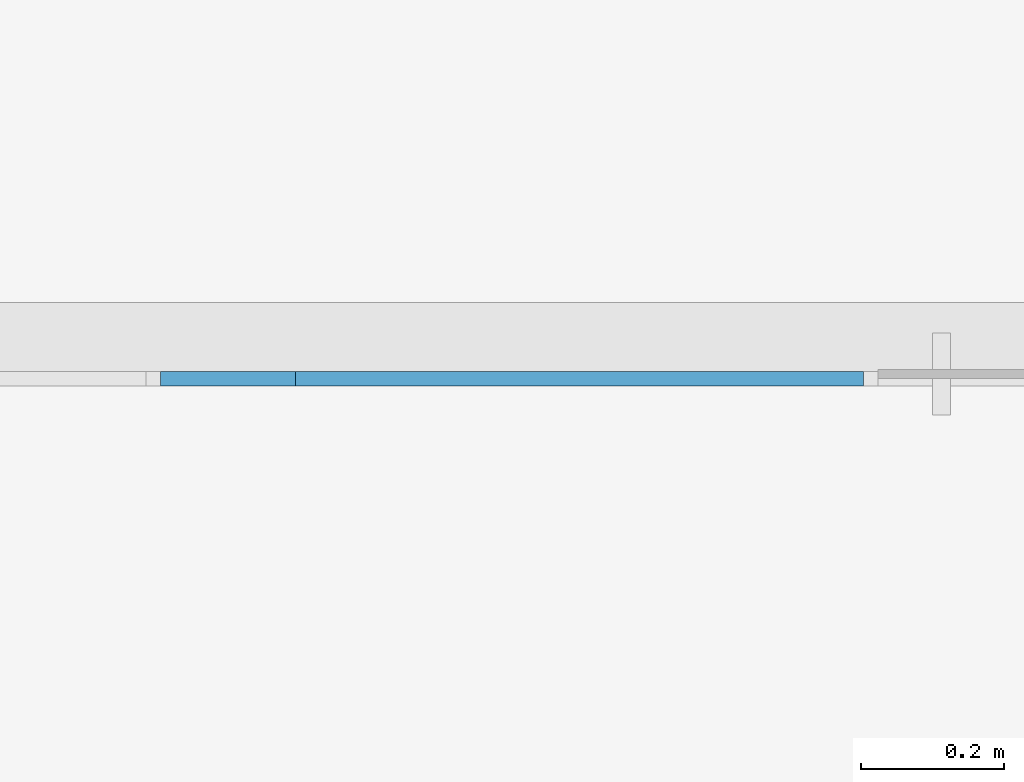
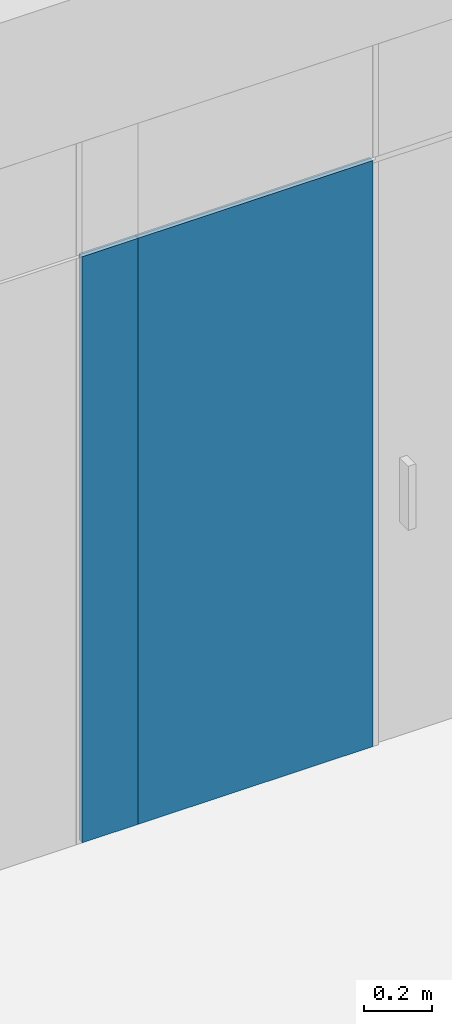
# One storey, part 10 of 49: 2 plates, 1 element without a shape of its own.
"""IFC2X3 building model written with IfcOpenShell, lengths in millimetres."""

import ifcopenshell
import ifcopenshell.guid

model = None  # the IFC model being written
_history = None  # IfcOwnerHistory: only IFC2X3 demands one
_inside = {}  # id of a spatial element -> (the spatial element, [elements in it])
_under = {}  # id of a project, library or spatial element -> (it, [spatial elements below it])
_declared = {}  # id of a project -> (the project, [libraries it declares])
_typed = {}  # id of a type object -> (the type object, [elements of that type])
_made_of = {}  # id of a material, layer set ... -> (it, [elements and type objects made of it])


def new_model(schema):
    """Start an empty IFC model of exactly this schema.

    Asked for "IFC4X3", IfcOpenShell would pick the latest addendum, in which some entities
    have other attributes; the version numbers below select the first issue.
    IFC2X3 requires an IfcOwnerHistory on every rooted entity: one is made here for all.
    """
    global model, _history
    if schema == "IFC4X3":
        model = ifcopenshell.file(schema_version=(4, 3, 0, 0))
    else:
        model = ifcopenshell.file(schema=schema)
    _inside.clear()
    _under.clear()
    _declared.clear()
    _typed.clear()
    _made_of.clear()
    _history = None
    if model.schema == "IFC2X3":
        org = make("IfcOrganization", Name="unknown")
        user = make(
            "IfcPersonAndOrganization",
            ThePerson=make("IfcPerson", FamilyName="unknown"),
            TheOrganization=org,
        )
        app = make(
            "IfcApplication",
            ApplicationDeveloper=org,
            Version="unknown",
            ApplicationFullName="unknown",
            ApplicationIdentifier="unknown",
        )
        _history = make(
            "IfcOwnerHistory",
            OwningUser=user,
            OwningApplication=app,
            ChangeAction="ADDED",
            CreationDate=0,
        )
    return model


def make(cls, **values):
    """One entity of the class cls with the attributes given. An attribute that is None is left unset."""
    return model.create_entity(
        cls, **{name: value for name, value in values.items() if value is not None}
    )


def entity(cls, *values):
    """Any entity or typed value of the class cls, its attributes in the order of the schema. None: left unset."""
    e = model.create_entity(cls)
    for i, value in enumerate(values):
        if value is not None:
            e[i] = value
    return e


def rooted(cls, **values):
    """An entity with a GlobalId (a new one), such as an element, a storey or a relation."""
    return make(cls, GlobalId=ifcopenshell.guid.new(), OwnerHistory=_history, **values)


def si_unit(unit_type, name, prefix=None):
    """IfcSIUnit, for example si_unit("LENGTHUNIT", "METRE", prefix="MILLI")."""
    return make("IfcSIUnit", UnitType=unit_type, Prefix=prefix, Name=name)


def converted_unit(unit_type, name, factor, base, dimensions=None, offset=None):
    """IfcConversionBasedUnit, such as the inch: factor (a typed value) times the base unit."""
    return make(
        "IfcConversionBasedUnit"
        if offset is None
        else "IfcConversionBasedUnitWithOffset",
        ConversionOffset=offset,
        Dimensions=None
        if dimensions is None
        else entity("IfcDimensionalExponents", *dimensions),
        UnitType=unit_type,
        Name=name,
        ConversionFactor=make(
            "IfcMeasureWithUnit", ValueComponent=factor, UnitComponent=base
        ),
    )


def derived_unit(unit_type, elements):
    """IfcDerivedUnit: a product of units, each with its exponent."""
    return make(
        "IfcDerivedUnit",
        Elements=[
            make("IfcDerivedUnitElement", Unit=unit, Exponent=power)
            for unit, power in elements
        ],
        UnitType=unit_type,
    )


def assignment(units):
    """IfcUnitAssignment: the units of a project."""
    return None if units is None else make("IfcUnitAssignment", Units=units)


def point(xyz):
    """IfcCartesianPoint."""
    return None if xyz is None else make("IfcCartesianPoint", Coordinates=xyz)


def direction(xyz):
    """IfcDirection."""
    return None if xyz is None else make("IfcDirection", DirectionRatios=xyz)


def frame(location, z_axis=None, x_axis=None):
    """IfcAxis2Placement3D, a coordinate frame: its origin and axes. An axis left out is left unset."""
    return make(
        "IfcAxis2Placement3D",
        Location=point(location),
        Axis=direction(z_axis),
        RefDirection=direction(x_axis),
    )


def frame_2d(location, x_axis=None):
    """IfcAxis2Placement2D, a coordinate frame in the plane: its origin and x axis."""
    return make(
        "IfcAxis2Placement2D", Location=point(location), RefDirection=direction(x_axis)
    )


def origin():
    """The frame at (0, 0, 0) with its axes left unset."""
    return frame((0.0, 0.0, 0.0))


def origin_2d_with_axis():
    """The frame at (0, 0) in the plane with the x axis (1, 0) written out."""
    return frame_2d((0.0, 0.0), x_axis=(1.0, 0.0))


def place(relative_to, where):
    """IfcLocalPlacement: puts the frame where relative to a parent placement (None: the world)."""
    return make(
        "IfcLocalPlacement", PlacementRelTo=relative_to, RelativePlacement=where
    )


def context(
    kind, dimensions, precision=None, world=None, true_north=None, identifier=None
):
    """IfcGeometricRepresentationContext, for example the 3D "Model" context."""
    return make(
        "IfcGeometricRepresentationContext",
        ContextIdentifier=identifier,
        ContextType=kind,
        CoordinateSpaceDimension=dimensions,
        Precision=precision,
        WorldCoordinateSystem=world,
        TrueNorth=true_north,
    )


def subcontext(parent, identifier, kind, view, scale=None):
    """IfcGeometricRepresentationSubContext, for example "Body" below "Model"."""
    return make(
        "IfcGeometricRepresentationSubContext",
        ContextIdentifier=identifier,
        ContextType=kind,
        ParentContext=parent,
        TargetScale=scale,
        TargetView=view,
    )


def project(units=None, contexts=None):
    """IfcProject with its units and contexts."""
    return rooted(
        "IfcProject",
        Name="project",
        RepresentationContexts=contexts,
        UnitsInContext=assignment(units),
    )


def spatial(cls, under=None, at=None, **own):
    """A site, building, storey or space (cls), placed at a placement, below another one or the project."""
    s = rooted(cls, ObjectPlacement=at, **own)
    if under is not None:
        _under.setdefault(under.id(), (under, []))[1].append(s)
    return s


def profile(cls, at=None, kind="AREA", **sizes):
    """A parametric profile (cls). Its sizes go by their IFC names, for example OverallWidth=200.0."""
    return make(cls, ProfileType=kind, Position=at, **sizes)


def rectangle(**sizes):
    """IfcRectangleProfileDef."""
    return profile("IfcRectangleProfileDef", **sizes)


def extrude(swept, where, along, depth):
    """IfcExtrudedAreaSolid: the profile swept, set in the frame where, extruded along a direction by depth."""
    return make(
        "IfcExtrudedAreaSolid",
        SweptArea=swept,
        Position=where,
        ExtrudedDirection=direction(along),
        Depth=depth,
    )


def shape(context_of_items, identifier, shape_type, items):
    """IfcShapeRepresentation: the items that make up one representation, for example the "Body"."""
    return make(
        "IfcShapeRepresentation",
        ContextOfItems=context_of_items,
        RepresentationIdentifier=identifier,
        RepresentationType=shape_type,
        Items=items,
    )


def source(mapping_origin, context_of_items, identifier, shape_type, items):
    """IfcRepresentationMap: a shape defined once, which mapped items show again and again."""
    return make(
        "IfcRepresentationMap",
        MappingOrigin=mapping_origin,
        MappedRepresentation=shape(context_of_items, identifier, shape_type, items),
    )


def transform(
    local_origin,
    x_axis=None,
    y_axis=None,
    z_axis=None,
    scale=None,
    scale2=None,
    scale3=None,
    uniform=True,
):
    """IfcCartesianTransformationOperator3D, or its non-uniform kind. x_axis, y_axis, z_axis: its Axis1, 2, 3."""
    if uniform:
        return make(
            "IfcCartesianTransformationOperator3D",
            Axis1=direction(x_axis),
            Axis2=direction(y_axis),
            LocalOrigin=point(local_origin),
            Scale=scale,
            Axis3=direction(z_axis),
        )
    return make(
        "IfcCartesianTransformationOperator3DnonUniform",
        Axis1=direction(x_axis),
        Axis2=direction(y_axis),
        LocalOrigin=point(local_origin),
        Scale=scale,
        Axis3=direction(z_axis),
        Scale2=scale2,
        Scale3=scale3,
    )


def mapped(mapping_source, mapping_target):
    """IfcMappedItem: shows the shape of a source again, moved by a transform."""
    return make(
        "IfcMappedItem", MappingSource=mapping_source, MappingTarget=mapping_target
    )


def material(Name=None, Category=None):
    """IfcMaterial."""
    return make("IfcMaterial", Name=Name, Category=Category)


def layer(
    of_material, thickness, ventilated=None, Name=None, Category=None, Priority=None
):
    """IfcMaterialLayer: one layer of a wall or slab, of a material (None: an air gap)."""
    return make(
        "IfcMaterialLayer",
        Material=of_material,
        LayerThickness=thickness,
        IsVentilated=ventilated,
        Name=Name,
        Category=Category,
        Priority=Priority,
    )


def layer_set(layers, Name=None):
    """IfcMaterialLayerSet."""
    return make("IfcMaterialLayerSet", MaterialLayers=layers, LayerSetName=Name)


def layer_usage(for_layer_set, set_direction, sense, offset, extent=None):
    """IfcMaterialLayerSetUsage: how a layer set lies in its element."""
    return make(
        "IfcMaterialLayerSetUsage",
        ForLayerSet=for_layer_set,
        LayerSetDirection=set_direction,
        DirectionSense=sense,
        OffsetFromReferenceLine=offset,
        ReferenceExtent=extent,
    )


def made_of(thing, what):
    """Note that an element or type object is made of a material, layer set ...; save() writes the relation."""
    if what is not None:
        _made_of.setdefault(what.id(), (what, []))[1].append(thing)
    return thing


def type_object(cls, material=None, **own):
    """A type object (cls), such as IfcWallType, which elements share."""
    return made_of(rooted(cls, **own), material)


def type_shapes(of_type, sources):
    """Give a type object the sources (RepresentationMaps) that its elements show as mapped items."""
    of_type.RepresentationMaps = sources


def element(
    cls,
    number,
    at=None,
    inside=None,
    cuts=None,
    type_object=None,
    material=None,
    context=None,
    identifier="Body",
    shape_type=None,
    held_by="IfcProductDefinitionShape",
    body=None,
    shapes=None,
    **own,
):
    """One element of the class cls, such as IfcWall. Its Tag is "e" and its number.

    at: its placement. inside: the storey or other place that contains it. cuts: it is an
    opening in that element (IfcRelVoidsElement). A single representation is given by context,
    identifier, shape_type and body (its items); several are given by shapes. held_by: the class
    of the entity that holds the representations. save() writes the other relations.
    """
    e = rooted(cls, Tag="e%d" % number, ObjectPlacement=at, **own)
    if body is not None:
        shapes = [shape(context, identifier, shape_type, body)]
    if shapes is not None:
        e.Representation = make(held_by, Representations=shapes)
    if inside is not None:
        _inside.setdefault(inside.id(), (inside, []))[1].append(e)
    if cuts is not None:
        rooted(
            "IfcRelVoidsElement", RelatingBuildingElement=cuts, RelatedOpeningElement=e
        )
    if type_object is not None:
        _typed.setdefault(type_object.id(), (type_object, []))[1].append(e)
    return made_of(e, material)


def aggregate(whole, parts):
    """IfcRelAggregates: a whole, such as a stair, and the parts it consists of."""
    return rooted("IfcRelAggregates", RelatingObject=whole, RelatedObjects=parts)


def save(model, path):
    """Write the relations noted so far, then the file.

    IfcRelAggregates (storeys below a building ...), IfcRelContainedInSpatialStructure (elements
    in a storey), IfcRelDefinesByType, IfcRelAssociatesMaterial and IfcRelDeclares: one each for
    every whole, place, type object, material and project.
    """
    for whole, parts in _under.values():
        aggregate(whole, parts)
    for where, things in _inside.values():
        rooted(
            "IfcRelContainedInSpatialStructure",
            RelatedElements=things,
            RelatingStructure=where,
        )
    for kind, things in _typed.values():
        rooted("IfcRelDefinesByType", RelatedObjects=things, RelatingType=kind)
    for what, things in _made_of.values():
        rooted("IfcRelAssociatesMaterial", RelatedObjects=things, RelatingMaterial=what)
    for by, libraries in _declared.values():
        rooted("IfcRelDeclares", RelatingContext=by, RelatedDefinitions=libraries)
    model.write(path)


model = new_model("IFC2X3")

# Units and contexts
model_context = context("Model", 3, precision=0.01, world=origin(), true_north=direction((6.12303176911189e-17, 1.0)))
body_context = subcontext(model_context, "Body", "Model", "MODEL_VIEW")
ifc_project = project(units=[si_unit("LENGTHUNIT", "METRE", prefix="MILLI"), si_unit("AREAUNIT", "SQUARE_METRE"), si_unit("VOLUMEUNIT", "CUBIC_METRE"), converted_unit("PLANEANGLEUNIT", "DEGREE", entity("IfcRatioMeasure", 0.0174532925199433), si_unit("PLANEANGLEUNIT", "RADIAN"), dimensions=[0, 0, 0, 0, 0, 0, 0]), si_unit("MASSUNIT", "GRAM", prefix="KILO"), derived_unit("MASSDENSITYUNIT", [(si_unit("MASSUNIT", "GRAM", prefix="KILO"), 1), (si_unit("LENGTHUNIT", "METRE"), -3)]), si_unit("TIMEUNIT", "SECOND"), si_unit("FREQUENCYUNIT", "HERTZ"), si_unit("THERMODYNAMICTEMPERATUREUNIT", "DEGREE_CELSIUS"), derived_unit("THERMALTRANSMITTANCEUNIT", [(si_unit("MASSUNIT", "GRAM", prefix="KILO"), 1), (si_unit("THERMODYNAMICTEMPERATUREUNIT", "KELVIN"), -1), (si_unit("TIMEUNIT", "SECOND"), -3)]), derived_unit("VOLUMETRICFLOWRATEUNIT", [(si_unit("LENGTHUNIT", "METRE"), 3), (si_unit("TIMEUNIT", "SECOND"), -1)]), si_unit("ELECTRICCURRENTUNIT", "AMPERE"), si_unit("ELECTRICVOLTAGEUNIT", "VOLT"), si_unit("POWERUNIT", "WATT"), si_unit("FORCEUNIT", "NEWTON", prefix="KILO"), si_unit("ILLUMINANCEUNIT", "LUX"), si_unit("LUMINOUSFLUXUNIT", "LUMEN"), si_unit("LUMINOUSINTENSITYUNIT", "CANDELA"), derived_unit("USERDEFINED", [(si_unit("MASSUNIT", "GRAM", prefix="KILO"), -1), (si_unit("LENGTHUNIT", "METRE"), -2), (si_unit("TIMEUNIT", "SECOND"), 3), (si_unit("LUMINOUSFLUXUNIT", "LUMEN"), 1)]), derived_unit("LINEARVELOCITYUNIT", [(si_unit("LENGTHUNIT", "METRE"), 1), (si_unit("TIMEUNIT", "SECOND"), -1)]), si_unit("PRESSUREUNIT", "PASCAL"), derived_unit("USERDEFINED", [(si_unit("LENGTHUNIT", "METRE"), -2), (si_unit("MASSUNIT", "GRAM", prefix="KILO"), 1), (si_unit("TIMEUNIT", "SECOND"), -2)])], contexts=[model_context])

# Site, building, storey
site_placement = place(None, frame((-151.875543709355, 2715.0, 0.0)))
site = spatial("IfcSite", under=ifc_project, at=site_placement, Name="Surface", CompositionType="ELEMENT")
building_placement = place(site_placement, origin())
building = spatial("IfcBuilding", under=site, at=building_placement, CompositionType="ELEMENT")
storey_placement = place(building_placement, origin())
storey = spatial("IfcBuildingStorey", under=building, at=storey_placement, Name="1 korrus", CompositionType="ELEMENT", Elevation=3.0969999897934e-10)

# Curtain wall, plates
curtain_wall_type = type_object("IfcCurtainWallType", Name="Curtain Wall:Klaassein KLS-01", PredefinedType="NOTDEFINED")
curtain_wall_placement = place(storey_placement, origin())
curtain_wall = element("IfcCurtainWall", 1, at=curtain_wall_placement, inside=storey, type_object=curtain_wall_type, Name="Curtain Wall:Klaassein KLS-01", ObjectType="Curtain Wall:Klaassein KLS-01")
ifc_material = material(Name="<Unnamed>")
ifc_layer = layer(ifc_material, 20.0)
ifc_layer_set = layer_set([ifc_layer], Name="Curtain Wall:Klaassein KLS-01")
ifc_layer_usage_1 = layer_usage(ifc_layer_set, "AXIS3", "POSITIVE", 0.0)
plate_type_1 = type_object("IfcPlateType", Name="Glazed", PredefinedType="CURTAIN_PANEL", material=ifc_layer_set)
shared_shape_1 = source(origin(), body_context, "Body", "SweptSolid", [
    extrude(rectangle(XDim=20.0, YDim=188.0000003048, at=origin_2d_with_axis()), frame((0.0, 0.0, 0.0), z_axis=(0.0, 0.0, 1.0), x_axis=(0.0, 1.0, 0.0)), (0.0, 0.0, 1.0), 2090.0),
])
type_shapes(plate_type_1, [shared_shape_1])
plate_1_placement = place(curtain_wall_placement, frame((17859.2710851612, 3017.49999999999, 0.0)))
plate_1 = element("IfcPlate", 2, at=plate_1_placement, type_object=plate_type_1, material=ifc_layer_usage_1, Name="System Panel:Glazed", ObjectType="Glazed", context=body_context, shape_type="MappedRepresentation", body=[
    mapped(shared_shape_1, transform((0.0, 0.0, 0.0), scale=1.0)),
])
ifc_layer_usage_2 = layer_usage(ifc_layer_set, "AXIS3", "POSITIVE", 0.0)
plate_type_2 = type_object("IfcPlateType", Name="Glazed", PredefinedType="CURTAIN_PANEL", material=ifc_layer_set)
shared_shape_2 = source(origin(), body_context, "Body", "SweptSolid", [
    extrude(rectangle(XDim=20.0, YDim=791.999999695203, at=origin_2d_with_axis()), frame((0.0, 0.0, 0.0), z_axis=(0.0, 0.0, 1.0), x_axis=(0.0, 1.0, 0.0)), (0.0, 0.0, 1.0), 2090.0),
])
type_shapes(plate_type_2, [shared_shape_2])
plate_2_placement = place(curtain_wall_placement, frame((18349.2710851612, 3017.49999999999, 0.0)))
plate_2 = element("IfcPlate", 3, at=plate_2_placement, type_object=plate_type_2, material=ifc_layer_usage_2, Name="System Panel:Glazed", ObjectType="Glazed", context=body_context, shape_type="MappedRepresentation", body=[
    mapped(shared_shape_2, transform((0.0, 0.0, 0.0), scale=1.0)),
])
aggregate(curtain_wall, [plate_1, plate_2])

save(model, "model.ifc")
